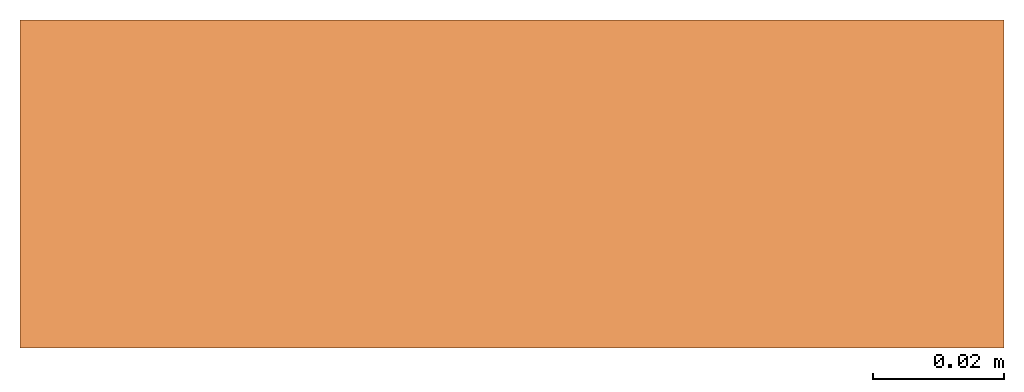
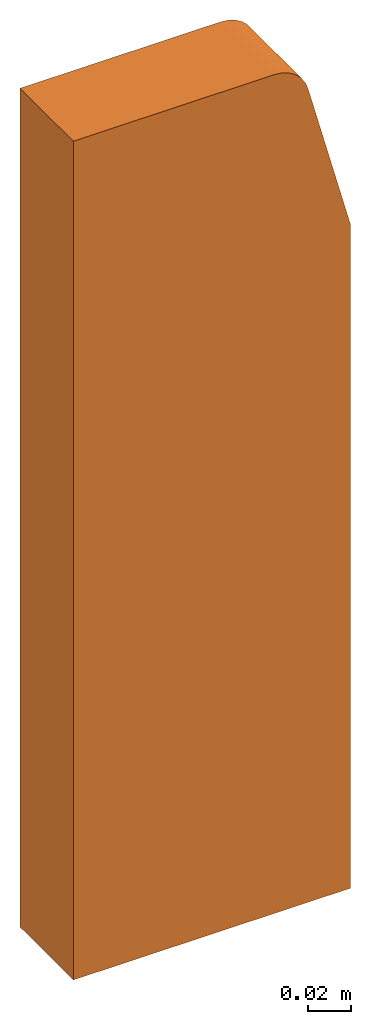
# One storey: 1 proxy.
"""IFC2X3 building model written with IfcOpenShell, lengths in millimetres."""

from ifc_helpers import new_model, entity, si_unit, converted_unit, direction, frame, frame_2d, origin, place, context, subcontext, project, spatial, polyline, circle_curve, parameter, trimmed, segment, composite_curve, outline, extrude, source, transform, mapped, material, element, save


model = new_model("IFC2X3")

# Units and contexts
model_context = context("Model", 3, precision=1e-06, world=origin(), true_north=direction((2.0, 6.12303176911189e-17, 1.0)))
context_of_model = context(None, 3, precision=1e-06, world=origin(), true_north=direction((2.0, 6.12303176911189e-17, 1.0)))
body_context = subcontext(model_context, "Body", "Model", "MODEL_VIEW")
ifc_project = project(units=[si_unit("LENGTHUNIT", "METRE", prefix="MILLI"), si_unit("AREAUNIT", "SQUARE_METRE", prefix="MILLI"), si_unit("VOLUMEUNIT", "CUBIC_METRE", prefix="MILLI"), converted_unit("PLANEANGLEUNIT", "DEGREE", entity("IfcRatioMeasure", 0.0174532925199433), si_unit("PLANEANGLEUNIT", "RADIAN"), dimensions=[0, 0, 0, 0, 0, 0, 0]), si_unit("TIMEUNIT", "SECOND")], contexts=[model_context, context_of_model])

# Site, building, storey
site_placement = place(None, origin())
site = spatial("IfcSite", under=ifc_project, at=site_placement, Name="Default", CompositionType="ELEMENT")
building_placement = place(site_placement, origin())
building = spatial("IfcBuilding", under=site, at=building_placement, CompositionType="ELEMENT")
storey_placement = place(building_placement, frame((0.0, 0.0, -300.0)))
storey = spatial("IfcBuildingStorey", under=building, at=storey_placement, Name="T.O. Fnd. Wall", CompositionType="ELEMENT", Elevation=-300.0)

# Proxy
ifc_material = material(Name="ACO Polymer Concrete.")
shared_shape = source(origin(), body_context, "Body", "SweptSolid", [
    extrude(outline(composite_curve([segment(polyline([(-60.7328291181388, -300.987474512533), (89.2671708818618, -300.987474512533)]), True, "CONTINUOUS"), segment(polyline([(89.2671708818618, -300.987474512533), (89.2671708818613, 179.014953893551)]), True, "CONTINUOUS"), segment(polyline([(89.2671708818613, 179.014953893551), (-19.3580464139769, 179.014953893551)]), True, "CONTINUOUS"), segment(trimmed(circle_curve(frame_2d((-19.3580464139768, 160.014953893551), x_axis=(-1.0, 0.0)), 19.0), [parameter(270.0)], [parameter(345.000000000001)], True, "PARAMETER"), True, "CONTINUOUS"), segment(polyline([(-37.7106371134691, 164.932515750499), (-60.7328291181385, 79.0125254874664)]), True, "CONTINUOUS"), segment(polyline([(-60.7328291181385, 79.0125254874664), (-60.7328291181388, -300.987474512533)]), True, "CONTINUOUS")], self_intersect=False)), frame((14.2671708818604, 0.0, -54.0149538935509), z_axis=(0.0, 1.0, 0.0), x_axis=(-1.0, 0.0, 0.0)), (0.0, 0.0, 1.0), 50.0),
])
proxy_placement = place(storey_placement, frame((-4264.21056397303, -6896.5502196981, 300.0)))
element("IfcBuildingElementProxy", 1, at=proxy_placement, inside=storey, material=ifc_material, Name="Civil-Drainage-Channel-ACO-KerbDrain-HB305 - PART 1:4938 - Closing end cap:4938 - Closing end cap", ObjectType="4938 - Closing end cap", CompositionType="ELEMENT", context=body_context, shape_type="MappedRepresentation", body=[
    mapped(shared_shape, transform((0.0, 0.0, 0.0), scale=1.0)),
])

save(model, "model.ifc")
